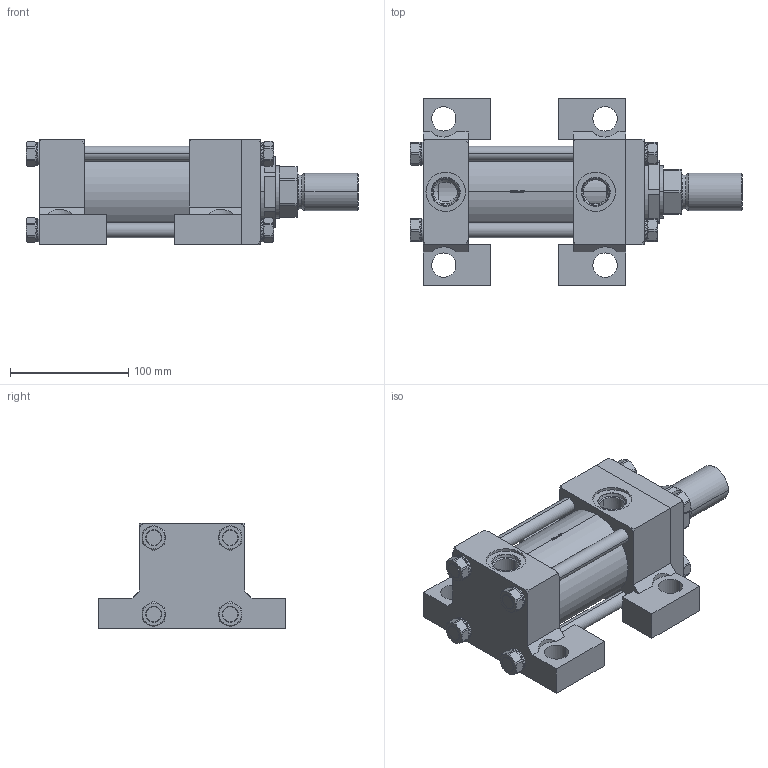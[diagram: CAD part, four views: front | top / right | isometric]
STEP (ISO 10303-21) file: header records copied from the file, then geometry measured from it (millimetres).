
FILE_DESCRIPTION (( 'STEP AP214' ), '1' );
FILE_NAME ('2.50C2HHNAT124A2.000.step', '2026-03-26T21:12:26', ( '' ), ( '' ), 'SwSTEP 2.0', 'SolidWorks 2023', '' );
FILE_SCHEMA (( 'AUTOMOTIVE_DESIGN' ));
Length unit declared in the file: inch
Products named in the file (1): 2.50C2HHNAT124A2.000
Bounding box: 280.99 x 158.75 x 88.9 mm (x, y, z)
Volume: 1359451.1 mm3; surface area: 296967.8 mm2
Topology: 46 solids, 46 shells, 1232 faces, 3181 edges, 2048 vertices
Faces by surface type: plane 804, cylinder 221, cone 161, bspline 38, torus 8
Entity records: 55712 total; most frequent: CARTESIAN_POINT 10982, ORIENTED_EDGE 6362, DIRECTION 5196, EDGE_CURVE 3181, VERTEX_POINT 2048, AXIS2_PLACEMENT_3D 1760, VECTOR 1676, LINE 1676
